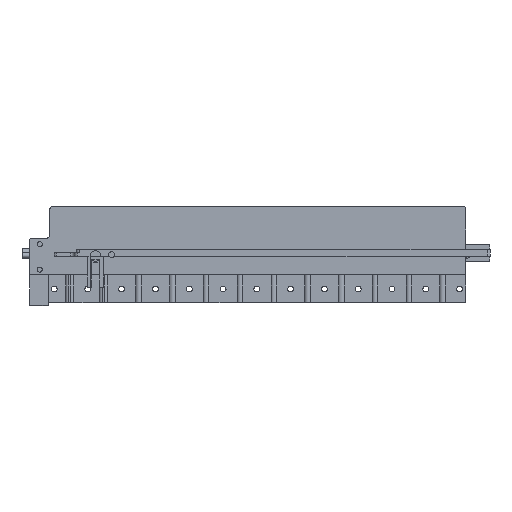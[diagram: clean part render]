
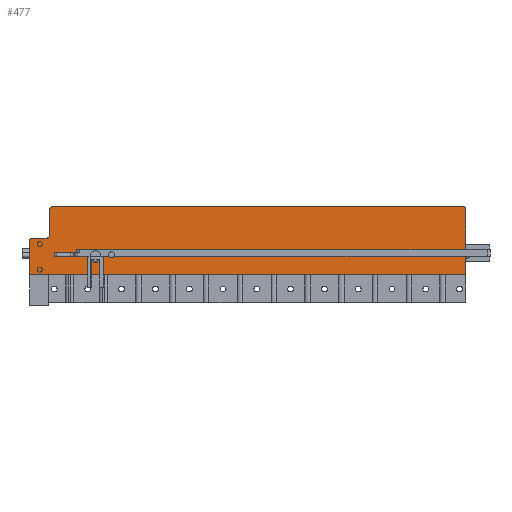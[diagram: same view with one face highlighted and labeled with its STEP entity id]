
A CAD part, front view. The second image highlights one B-rep face of the part: STEP entity #477.
In plain terms, the highlighted planar face has unit normal (0, -1, 0).
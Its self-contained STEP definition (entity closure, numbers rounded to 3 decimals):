
#477 = ADVANCED_FACE( '', ( #698 ), #699, .F. );
#698 = FACE_OUTER_BOUND( '', #1273, .T. );
#699 = PLANE( '', #1274 );
#1273 = EDGE_LOOP( '', ( #1874, #1875, #1876, #1877, #1878, #1879, #1880, #1881, #1882, #1883 ) );
#1274 = AXIS2_PLACEMENT_3D( '', #1884, #1885, #1886 );
#1874 = ORIENTED_EDGE( '', *, *, #3535, .T. );
#1875 = ORIENTED_EDGE( '', *, *, #3536, .T. );
#1876 = ORIENTED_EDGE( '', *, *, #3537, .T. );
#1877 = ORIENTED_EDGE( '', *, *, #3538, .F. );
#1878 = ORIENTED_EDGE( '', *, *, #3533, .F. );
#1879 = ORIENTED_EDGE( '', *, *, #3531, .F. );
#1880 = ORIENTED_EDGE( '', *, *, #3539, .T. );
#1881 = ORIENTED_EDGE( '', *, *, #3540, .F. );
#1882 = ORIENTED_EDGE( '', *, *, #3541, .F. );
#1883 = ORIENTED_EDGE( '', *, *, #3542, .T. );
#1884 = CARTESIAN_POINT( '', ( 225.809, -1.9, 29.55 ) );
#1885 = DIRECTION( '', ( 0., 1., 0. ) );
#1886 = DIRECTION( '', ( 0., 0., 1. ) );
#3531 = EDGE_CURVE( '', #4063, #4065, #4066, .T. );
#3533 = EDGE_CURVE( '', #4065, #4068, #4069, .T. );
#3535 = EDGE_CURVE( '', #4071, #4072, #4073, .T. );
#3536 = EDGE_CURVE( '', #4072, #4074, #4075, .F. );
#3537 = EDGE_CURVE( '', #4074, #4076, #4077, .T. );
#3538 = EDGE_CURVE( '', #4068, #4076, #4078, .F. );
#3539 = EDGE_CURVE( '', #4063, #4079, #4080, .T. );
#3540 = EDGE_CURVE( '', #4081, #4079, #4082, .T. );
#3541 = EDGE_CURVE( '', #4083, #4081, #4084, .T. );
#3542 = EDGE_CURVE( '', #4083, #4071, #4085, .F. );
#4063 = VERTEX_POINT( '', #4968 );
#4065 = VERTEX_POINT( '', #4971 );
#4066 = CIRCLE( '', #4972, 2. );
#4068 = VERTEX_POINT( '', #4975 );
#4069 = LINE( '', #4976, #4977 );
#4071 = VERTEX_POINT( '', #4980 );
#4072 = VERTEX_POINT( '', #4981 );
#4073 = LINE( '', #4982, #4983 );
#4074 = VERTEX_POINT( '', #4984 );
#4075 = CIRCLE( '', #4985, 2. );
#4076 = VERTEX_POINT( '', #4986 );
#4077 = LINE( '', #4987, #4988 );
#4078 = CIRCLE( '', #4989, 2. );
#4079 = VERTEX_POINT( '', #4990 );
#4080 = LINE( '', #4991, #4992 );
#4081 = VERTEX_POINT( '', #4993 );
#4082 = LINE( '', #4994, #4995 );
#4083 = VERTEX_POINT( '', #4996 );
#4084 = LINE( '', #4997, #4998 );
#4085 = CIRCLE( '', #4999, 2. );
#4968 = CARTESIAN_POINT( '', ( -39., -1.9, 9.604 ) );
#4971 = CARTESIAN_POINT( '', ( -37.3, -1.9, 10.55 ) );
#4972 = AXIS2_PLACEMENT_3D( '', #6175, #6176, #6177 );
#4975 = CARTESIAN_POINT( '', ( -29., -1.9, 10.55 ) );
#4976 = CARTESIAN_POINT( '', ( -27., -1.9, 10.55 ) );
#4977 = VECTOR( '', #6179, 1000. );
#4980 = CARTESIAN_POINT( '', ( 217.3, -1.9, 29.55 ) );
#4981 = CARTESIAN_POINT( '', ( -25., -1.9, 29.55 ) );
#4982 = CARTESIAN_POINT( '', ( 225.809, -1.9, 29.55 ) );
#4983 = VECTOR( '', #6181, 1000. );
#4984 = CARTESIAN_POINT( '', ( -27., -1.9, 27.55 ) );
#4985 = AXIS2_PLACEMENT_3D( '', #6182, #6183, #6184 );
#4986 = CARTESIAN_POINT( '', ( -27., -1.9, 12.55 ) );
#4987 = CARTESIAN_POINT( '', ( -27., -1.9, 29.55 ) );
#4988 = VECTOR( '', #6185, 1000. );
#4989 = AXIS2_PLACEMENT_3D( '', #6186, #6187, #6188 );
#4990 = CARTESIAN_POINT( '', ( -39., -1.9, -11.05 ) );
#4991 = CARTESIAN_POINT( '', ( -39., -1.9, 29.55 ) );
#4992 = VECTOR( '', #6189, 1000. );
#4993 = CARTESIAN_POINT( '', ( 219., -1.9, -11.05 ) );
#4994 = CARTESIAN_POINT( '', ( 225.809, -1.9, -11.05 ) );
#4995 = VECTOR( '', #6190, 1000. );
#4996 = CARTESIAN_POINT( '', ( 219., -1.9, 28.604 ) );
#4997 = CARTESIAN_POINT( '', ( 219., -1.9, -27.55 ) );
#4998 = VECTOR( '', #6191, 1000. );
#4999 = AXIS2_PLACEMENT_3D( '', #6192, #6193, #6194 );
#6175 = CARTESIAN_POINT( '', ( -37.3, -1.9, 8.55 ) );
#6176 = DIRECTION( '', ( 0., 1., 0. ) );
#6177 = DIRECTION( '', ( 0., 0., 1. ) );
#6179 = DIRECTION( '', ( 1., 0., 0. ) );
#6181 = DIRECTION( '', ( -1., 0., 0. ) );
#6182 = CARTESIAN_POINT( '', ( -25., -1.9, 27.55 ) );
#6183 = DIRECTION( '', ( 0., 1., 0. ) );
#6184 = DIRECTION( '', ( 0., 0., 1. ) );
#6185 = DIRECTION( '', ( 0., 0., -1. ) );
#6186 = CARTESIAN_POINT( '', ( -29., -1.9, 12.55 ) );
#6187 = DIRECTION( '', ( 0., 1., 0. ) );
#6188 = DIRECTION( '', ( 0., 0., 1. ) );
#6189 = DIRECTION( '', ( 0., 0., -1. ) );
#6190 = DIRECTION( '', ( -1., 0., 0. ) );
#6191 = DIRECTION( '', ( 0., 0., -1. ) );
#6192 = CARTESIAN_POINT( '', ( 217.3, -1.9, 27.55 ) );
#6193 = DIRECTION( '', ( 0., 1., 0. ) );
#6194 = DIRECTION( '', ( 0., 0., 1. ) );
